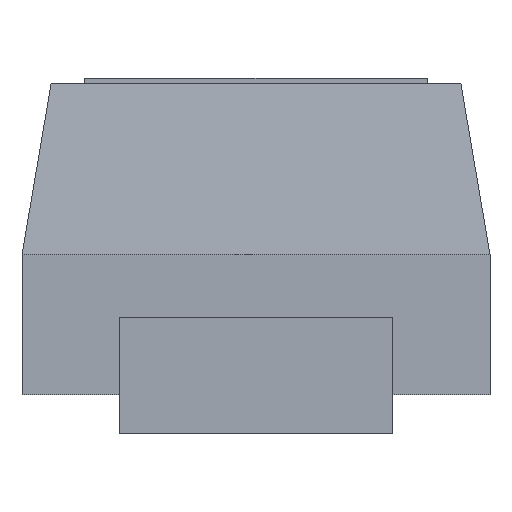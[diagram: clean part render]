
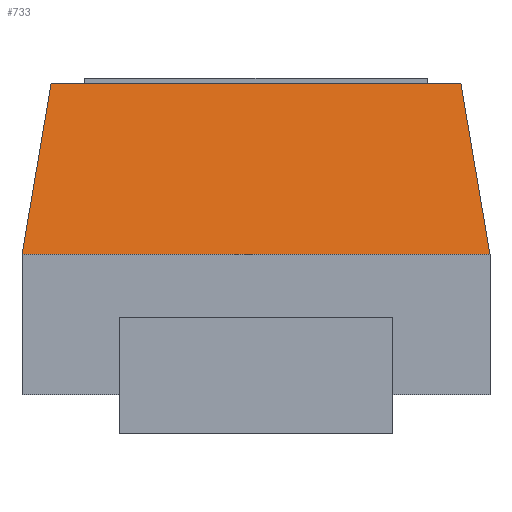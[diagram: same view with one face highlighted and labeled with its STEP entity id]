
A CAD part, left-side view. The second image highlights one B-rep face of the part: STEP entity #733.
In plain terms, the highlighted planar face has unit normal (-0.986, 0, 0.169).
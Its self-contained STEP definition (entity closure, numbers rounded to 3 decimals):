
#501=CARTESIAN_POINT('',(-0.368,-0.267,0.457));
#500=VERTEX_POINT('',#501);
#519=CARTESIAN_POINT('',(-0.368,0.267,0.457));
#518=VERTEX_POINT('',#519);
#527=EDGE_CURVE('',#500,#518,#532,.T.);
#532=LINE('',#501,#534);
#534=VECTOR('',#535,0.533);
#535=DIRECTION('',(0.0,1.0,0.0));
#599=CARTESIAN_POINT('',(-0.406,-0.305,0.234));
#598=VERTEX_POINT('',#599);
#625=EDGE_CURVE('',#598,#500,#630,.T.);
#630=LINE('',#599,#632);
#632=VECTOR('',#633,0.23);
#633=DIRECTION('',(0.166,0.166,0.972));
#695=CARTESIAN_POINT('',(-0.406,0.305,0.234));
#694=VERTEX_POINT('',#695);
#703=EDGE_CURVE('',#518,#694,#708,.T.);
#708=LINE('',#519,#710);
#710=VECTOR('',#711,0.23);
#711=DIRECTION('',(-0.166,0.166,-0.972));
#733=ADVANCED_FACE('',(#739),#734,.T.);
#734=PLANE('',#735);
#735=AXIS2_PLACEMENT_3D('',#736,#737,#738);
#736=CARTESIAN_POINT('',(-0.406,0.305,0.234));
#737=DIRECTION('',(-0.986,0.0,0.169));
#738=DIRECTION('',(0.,0.,1.));
#739=FACE_OUTER_BOUND('',#740,.T.);
#740=EDGE_LOOP('',(#741,#751,#761,#771));
#742=EDGE_CURVE('',#598,#694,#747,.T.);
#747=LINE('',#599,#749);
#749=VECTOR('',#750,0.61);
#750=DIRECTION('',(0.0,1.0,0.0));
#741=ORIENTED_EDGE('',*,*,#742,.F.);
#751=ORIENTED_EDGE('',*,*,#625,.T.);
#761=ORIENTED_EDGE('',*,*,#527,.T.);
#771=ORIENTED_EDGE('',*,*,#703,.T.);
